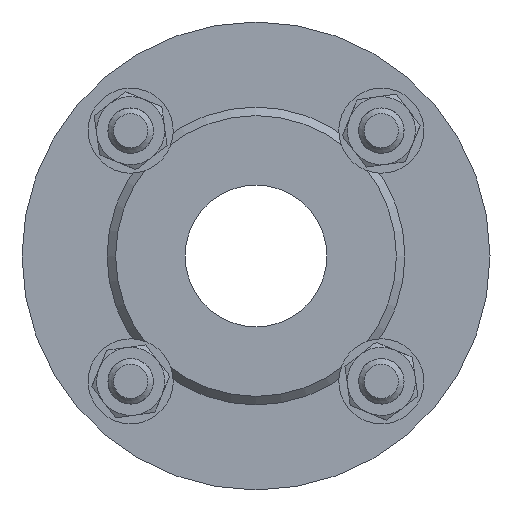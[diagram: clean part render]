
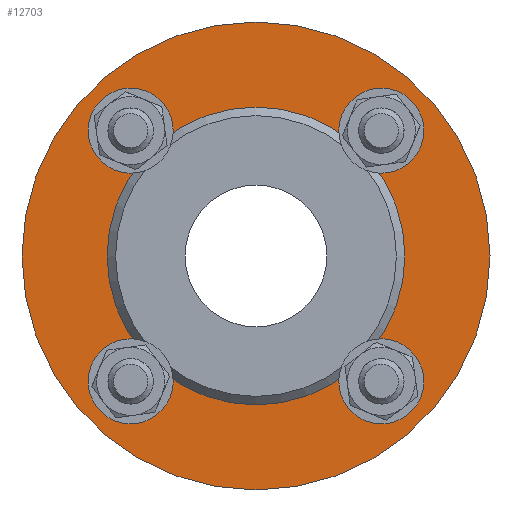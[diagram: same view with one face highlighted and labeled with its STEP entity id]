
A CAD part, left-side view. The second image highlights one B-rep face of the part: STEP entity #12703.
In plain terms, the highlighted planar face has unit normal (-1, 0, 0).
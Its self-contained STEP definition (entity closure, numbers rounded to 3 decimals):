
#372 = DIRECTION ( 'NONE',  ( 0., -1., 0. ) ) ;
#553 = AXIS2_PLACEMENT_3D ( 'NONE', #4140, #14407, #8602 ) ;
#641 = PLANE ( 'NONE',  #553 ) ;
#711 = FACE_BOUND ( 'NONE', #1220, .T. ) ;
#1068 = CARTESIAN_POINT ( 'NONE',  ( -87.54, 44.194, 36.194 ) ) ;
#1115 = CARTESIAN_POINT ( 'NONE',  ( -87.54, 44.194, -44.194 ) ) ;
#1131 = AXIS2_PLACEMENT_3D ( 'NONE', #13402, #3153, #6597 ) ;
#1215 = CARTESIAN_POINT ( 'NONE',  ( -87.54, 0., 0. ) ) ;
#1220 = EDGE_LOOP ( 'NONE', ( #7371 ) ) ;
#1418 = DIRECTION ( 'NONE',  ( 0., 0., -1. ) ) ;
#1897 = DIRECTION ( 'NONE',  ( 0., -1., 0. ) ) ;
#2012 = ORIENTED_EDGE ( 'NONE', *, *, #3356, .F. ) ;
#2205 = VERTEX_POINT ( 'NONE', #1068 ) ;
#2733 = AXIS2_PLACEMENT_3D ( 'NONE', #4707, #3703, #1418 ) ;
#3002 = FACE_BOUND ( 'NONE', #7822, .T. ) ;
#3075 = CIRCLE ( 'NONE', #1131, 8. ) ;
#3153 = DIRECTION ( 'NONE',  ( -1., 0., 0. ) ) ;
#3184 = CIRCLE ( 'NONE', #8331, 8. ) ;
#3356 = EDGE_CURVE ( 'NONE', #10646, #10646, #3075, .T. ) ;
#3703 = DIRECTION ( 'NONE',  ( -1., 0., 0. ) ) ;
#4140 = CARTESIAN_POINT ( 'NONE',  ( -87.54, 0., 82.5 ) ) ;
#4644 = DIRECTION ( 'NONE',  ( -1., 0., 0. ) ) ;
#4707 = CARTESIAN_POINT ( 'NONE',  ( -87.54, -44.194, -44.194 ) ) ;
#5654 = CARTESIAN_POINT ( 'NONE',  ( -87.54, 44.194, -52.194 ) ) ;
#5730 = DIRECTION ( 'NONE',  ( 0., 0., -1. ) ) ;
#5732 = VERTEX_POINT ( 'NONE', #5654 ) ;
#5897 = EDGE_CURVE ( 'NONE', #13079, #13079, #6650, .T. ) ;
#5959 = DIRECTION ( 'NONE',  ( -1., 0., 0. ) ) ;
#6095 = EDGE_CURVE ( 'NONE', #11089, #11089, #10091, .T. ) ;
#6302 = FACE_BOUND ( 'NONE', #12647, .T. ) ;
#6597 = DIRECTION ( 'NONE',  ( 0., 0., -1. ) ) ;
#6650 = CIRCLE ( 'NONE', #2733, 8. ) ;
#6955 = CARTESIAN_POINT ( 'NONE',  ( -87.54, -82.5, 0. ) ) ;
#7050 = EDGE_LOOP ( 'NONE', ( #11093 ) ) ;
#7351 = CIRCLE ( 'NONE', #9313, 82.5 ) ;
#7371 = ORIENTED_EDGE ( 'NONE', *, *, #6095, .F. ) ;
#7744 = CARTESIAN_POINT ( 'NONE',  ( -87.54, 44.194, 44.194 ) ) ;
#7822 = EDGE_LOOP ( 'NONE', ( #2012 ) ) ;
#7846 = DIRECTION ( 'NONE',  ( -1., 0., 0. ) ) ;
#8331 = AXIS2_PLACEMENT_3D ( 'NONE', #7744, #4644, #5730 ) ;
#8368 = CIRCLE ( 'NONE', #9831, 8. ) ;
#8602 = DIRECTION ( 'NONE',  ( 0., 1., 0. ) ) ;
#9137 = ORIENTED_EDGE ( 'NONE', *, *, #14012, .T. ) ;
#9313 = AXIS2_PLACEMENT_3D ( 'NONE', #1215, #5959, #372 ) ;
#9723 = CARTESIAN_POINT ( 'NONE',  ( -87.54, -52.5, 0. ) ) ;
#9755 = FACE_OUTER_BOUND ( 'NONE', #12268, .T. ) ;
#9831 = AXIS2_PLACEMENT_3D ( 'NONE', #1115, #7846, #12511 ) ;
#9870 = DIRECTION ( 'NONE',  ( -1., 0., 0. ) ) ;
#10091 = CIRCLE ( 'NONE', #14718, 52.5 ) ;
#10389 = ORIENTED_EDGE ( 'NONE', *, *, #13914, .F. ) ;
#10397 = ORIENTED_EDGE ( 'NONE', *, *, #12476, .F. ) ;
#10407 = VERTEX_POINT ( 'NONE', #6955 ) ;
#10646 = VERTEX_POINT ( 'NONE', #15079 ) ;
#10903 = FACE_BOUND ( 'NONE', #13955, .T. ) ;
#11089 = VERTEX_POINT ( 'NONE', #9723 ) ;
#11093 = ORIENTED_EDGE ( 'NONE', *, *, #5897, .F. ) ;
#12268 = EDGE_LOOP ( 'NONE', ( #9137 ) ) ;
#12388 = CARTESIAN_POINT ( 'NONE',  ( -87.54, 0., 0. ) ) ;
#12476 = EDGE_CURVE ( 'NONE', #5732, #5732, #8368, .T. ) ;
#12511 = DIRECTION ( 'NONE',  ( 0., 0., -1. ) ) ;
#12647 = EDGE_LOOP ( 'NONE', ( #10389 ) ) ;
#12703 = ADVANCED_FACE ( 'NONE', ( #14631, #6302, #3002, #10903, #711, #9755 ), #641, .F. ) ;
#13079 = VERTEX_POINT ( 'NONE', #14446 ) ;
#13402 = CARTESIAN_POINT ( 'NONE',  ( -87.54, -44.194, 44.194 ) ) ;
#13914 = EDGE_CURVE ( 'NONE', #2205, #2205, #3184, .T. ) ;
#13955 = EDGE_LOOP ( 'NONE', ( #10397 ) ) ;
#14012 = EDGE_CURVE ( 'NONE', #10407, #10407, #7351, .T. ) ;
#14407 = DIRECTION ( 'NONE',  ( 1., 0., 0. ) ) ;
#14446 = CARTESIAN_POINT ( 'NONE',  ( -87.54, -44.194, -52.194 ) ) ;
#14631 = FACE_BOUND ( 'NONE', #7050, .T. ) ;
#14718 = AXIS2_PLACEMENT_3D ( 'NONE', #12388, #9870, #1897 ) ;
#15079 = CARTESIAN_POINT ( 'NONE',  ( -87.54, -44.194, 36.194 ) ) ;
